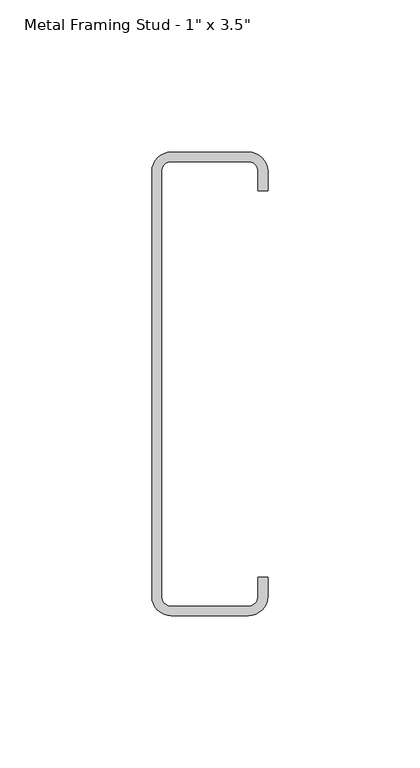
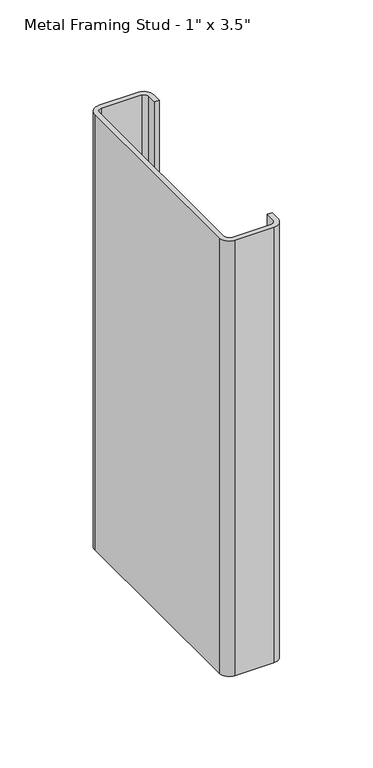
"""IFC4 building model written with IfcOpenShell, lengths in millimetres: proxy geometry."""

from ifc_helpers import new_model, si_unit, point, frame, frame_2d, origin, place, context, project, spatial, polyline, circle_curve, trimmed, segment, composite_curve, outline, extrude, source, transform, mapped, element, save


def proxy_3a0ad636(model_context):
    return source(origin(), model_context, "Body", "SweptSolid", [
        extrude(outline(composite_curve([segment(polyline([(19.05, 63.5), (15.875, 63.5), (15.875, 70.2679713)]), True, "CONTINUOUS"), segment(trimmed(circle_curve(frame_2d((12.7, 69.85)), 3.2023936), [point((15.875, 70.2679713))], [point((13.1179713, 73.025))], True, "CARTESIAN"), True, "CONTINUOUS"), segment(polyline([(13.1179713, 73.025), (-13.1179713, 73.025)]), True, "CONTINUOUS"), segment(trimmed(circle_curve(frame_2d((-12.7, 69.85)), 3.2023936), [point((-13.1179713, 73.025))], [point((-15.875, 70.2679713))], True, "CARTESIAN"), True, "CONTINUOUS"), segment(polyline([(-15.875, 70.2679713), (-15.875, -70.2679713)]), True, "CONTINUOUS"), segment(trimmed(circle_curve(frame_2d((-12.7, -69.85)), 3.2023936), [point((-15.875, -70.2679713))], [point((-13.1179713, -73.025))], True, "CARTESIAN"), True, "CONTINUOUS"), segment(polyline([(-13.1179713, -73.025), (13.1179713, -73.025)]), True, "CONTINUOUS"), segment(trimmed(circle_curve(frame_2d((12.7, -69.85)), 3.2023936), [point((13.1179713, -73.025))], [point((15.875, -70.2679713))], True, "CARTESIAN"), True, "CONTINUOUS"), segment(polyline([(15.875, -70.2679713), (15.875, -63.5), (19.05, -63.5), (19.05, -69.85)]), True, "CONTINUOUS"), segment(trimmed(circle_curve(frame_2d((12.7, -69.85)), 6.35), [point((19.05, -69.85))], [point((12.7, -76.2))], False, "CARTESIAN"), True, "CONTINUOUS"), segment(polyline([(12.7, -76.2), (-12.7, -76.2)]), True, "CONTINUOUS"), segment(trimmed(circle_curve(frame_2d((-12.7, -69.85)), 6.35), [point((-12.7, -76.2))], [point((-19.05, -69.85))], False, "CARTESIAN"), True, "CONTINUOUS"), segment(polyline([(-19.05, -69.85), (-19.05, 69.85)]), True, "CONTINUOUS"), segment(trimmed(circle_curve(frame_2d((-12.7, 69.85)), 6.35), [point((-19.05, 69.85))], [point((-12.7, 76.2))], False, "CARTESIAN"), True, "CONTINUOUS"), segment(polyline([(-12.7, 76.2), (12.7, 76.2)]), True, "CONTINUOUS"), segment(trimmed(circle_curve(frame_2d((12.7, 69.85)), 6.35), [point((12.7, 76.2))], [point((19.05, 69.85))], False, "CARTESIAN"), True, "CONTINUOUS"), segment(polyline([(19.05, 69.85), (19.05, 63.5)]), True, "CONTINUOUS")], self_intersect=False)), frame((0.0, 0.0, 463.55), z_axis=(0.0, 0.0, 1.0), x_axis=(1.0, 0.0, 0.0)), (0.0, 0.0, 1.0), 298.45),
    ])


if __name__ == "__main__":
    model = new_model("IFC4")
    model_context = context("Model", 3, world=origin())
    ifc_project = project(units=[si_unit("LENGTHUNIT", "METRE", prefix="MILLI")], contexts=[model_context])
    site = spatial("IfcSite", under=ifc_project)
    building = spatial("IfcBuilding", under=site)
    placement = place(None, origin())
    proxy_shape = proxy_3a0ad636(model_context)
    element("IfcBuildingElementProxy", 1, Name="CRAi Generic Model Metal Stud : Metal Framing Stud - 1\" x 3.5\"", ObjectType="CRAi Generic Model Metal Stud : Metal Framing Stud - 1\" x 3.5\"", at=placement, inside=building, context=model_context, shape_type="MappedRepresentation", body=[
        mapped(proxy_shape, transform((0.0, 0.0, 0.0), x_axis=(1.0, 0.0, 0.0), y_axis=(0.0, 1.0, 0.0), z_axis=(0.0, 0.0, 1.0))),
    ])
    save(model, "model.ifc")
